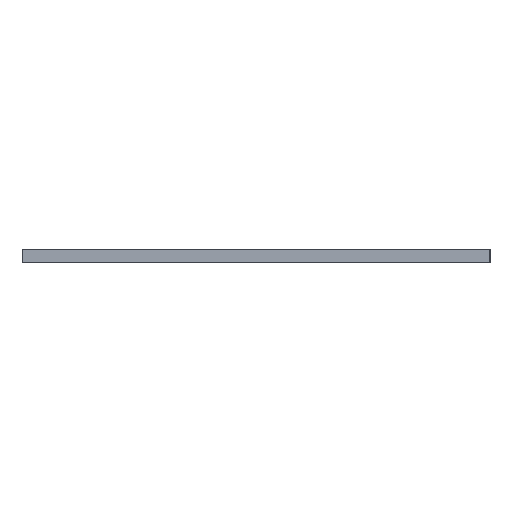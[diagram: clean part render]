
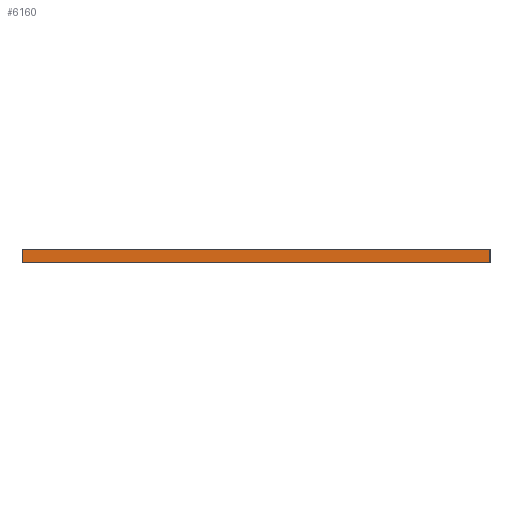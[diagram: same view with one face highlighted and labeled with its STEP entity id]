
A CAD part, left-side view. The second image highlights one B-rep face of the part: STEP entity #6160.
In plain terms, the highlighted planar face has unit normal (-1, 0, 0).
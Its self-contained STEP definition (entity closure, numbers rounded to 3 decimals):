
#834=PLANE('',#6717);
#1232=FACE_OUTER_BOUND('',#1495,.T.);
#1495=EDGE_LOOP('',(#5392,#5393,#5394,#5395));
#2130=LINE('',#10246,#2631);
#2138=LINE('',#10261,#2639);
#2139=LINE('',#10263,#2640);
#2140=LINE('',#10264,#2641);
#2631=VECTOR('',#8415,10.);
#2639=VECTOR('',#8427,10.);
#2640=VECTOR('',#8430,10.);
#2641=VECTOR('',#8431,10.);
#3562=VERTEX_POINT('',#10243);
#3563=VERTEX_POINT('',#10245);
#3567=VERTEX_POINT('',#10257);
#3568=VERTEX_POINT('',#10259);
#4333=EDGE_CURVE('',#3562,#3563,#2130,.T.);
#4341=EDGE_CURVE('',#3567,#3568,#2138,.T.);
#4342=EDGE_CURVE('',#3562,#3567,#2139,.T.);
#4343=EDGE_CURVE('',#3563,#3568,#2140,.T.);
#5392=ORIENTED_EDGE('',*,*,#4342,.T.);
#5393=ORIENTED_EDGE('',*,*,#4341,.T.);
#5394=ORIENTED_EDGE('',*,*,#4343,.F.);
#5395=ORIENTED_EDGE('',*,*,#4333,.F.);
#6160=ADVANCED_FACE('',(#1232),#834,.T.);
#6717=AXIS2_PLACEMENT_3D('',#10262,#8428,#8429);
#8415=DIRECTION('',(0.,0.,1.));
#8427=DIRECTION('',(0.,0.,1.));
#8428=DIRECTION('center_axis',(-1.,0.,0.));
#8429=DIRECTION('ref_axis',(0.,-1.,0.));
#8430=DIRECTION('',(0.,-1.,0.));
#8431=DIRECTION('',(0.,-1.,0.));
#10243=CARTESIAN_POINT('',(107.4,230.4,0.));
#10245=CARTESIAN_POINT('',(107.4,230.4,2.5));
#10246=CARTESIAN_POINT('',(107.4,230.4,0.));
#10257=CARTESIAN_POINT('',(107.4,143.4,0.));
#10259=CARTESIAN_POINT('',(107.4,143.4,2.5));
#10261=CARTESIAN_POINT('',(107.4,143.4,0.));
#10262=CARTESIAN_POINT('Origin',(107.4,230.4,0.));
#10263=CARTESIAN_POINT('',(107.4,230.4,0.));
#10264=CARTESIAN_POINT('',(107.4,230.4,2.5));
